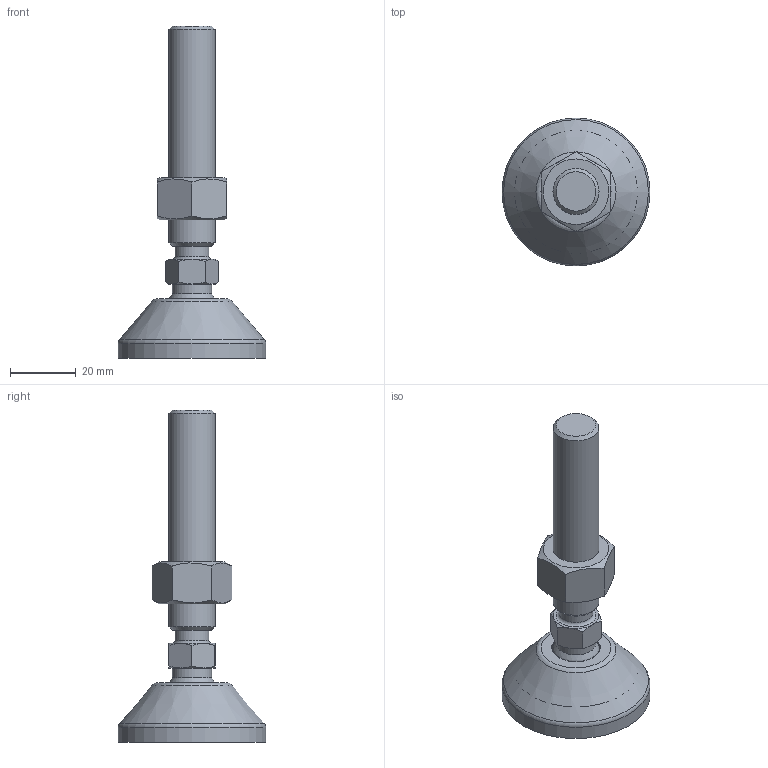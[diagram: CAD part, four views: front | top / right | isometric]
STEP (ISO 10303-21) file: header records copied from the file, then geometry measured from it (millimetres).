
FILE_DESCRIPTION(('STEP AP203'), '1');
FILE_NAME('栖闉罻', '', ('UNSPECIFIED'), ('UNSPECIFIED'), 'C3D Converter', 'C3D Toolkit', '');
FILE_SCHEMA(('CONFIG_CONTROL_DESIGN'));
Length unit declared in the file: millimetre
Products named in the file (4): A00015.1045; A00020.114066
Assembly tree (3 placements, depth 3):
  (unnamed)
    A00015.1045
    A00020.114066
      (unnamed)
Bounding box: 45 x 45 x 101 mm (x, y, z)
Volume: 29209.6 mm3; surface area: 12861.7 mm2
Topology: 3 solids, 3 shells, 141 faces, 380 edges, 250 vertices
Faces by surface type: plane 79, cylinder 26, cone 21, torus 13, sphere 2
Full cylindrical faces by diameter (mm): 10.2 x1, 11.835 x1, 12 x1, 14 x1, 14.3 x1, 15 x2, 15.5 x1, 37.3 x1, 45 x1
Entity records: 7819 total; most frequent: CARTESIAN_POINT 3055, DIRECTION 716, ORIENTED_EDGE 706, EDGE_CURVE 353, AXIS2_PLACEMENT_3D 288, VERTEX_POINT 249, EDGE_LOOP 174, FACE_BOUND 150
